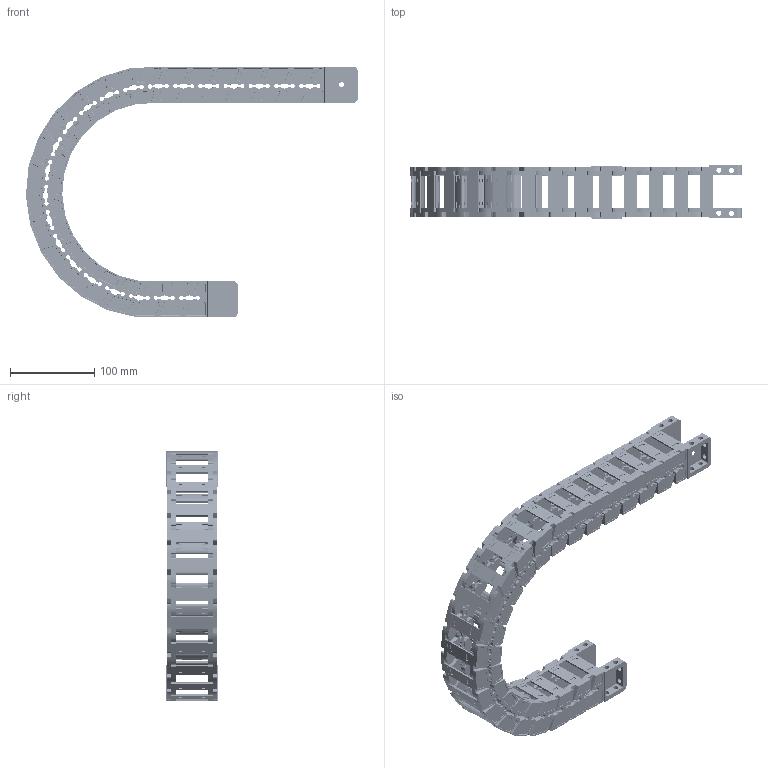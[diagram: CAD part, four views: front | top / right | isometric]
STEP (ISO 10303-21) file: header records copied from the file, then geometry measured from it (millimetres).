
FILE_DESCRIPTION((''),'2;1');
FILE_NAME('JY-35X38-R125_ASM','2025-01-05T19:37:54',('admin'),(''),'CREO PARAMETRIC BY PTC INC, 2021023','CREO PARAMETRIC BY PTC INC, 2021023','');
FILE_SCHEMA(('CONFIG_CONTROL_DESIGN'));
Length unit declared in the file: millimetre
Products named in the file (11): 35XL-L; YP; 35XL-R; ASM0001_ASM; 35-LTT-A-L; 35-LTT-A-R; 35XL-LTT-A_ASM; 35-LTT-B-L; 35-LTT-B-R; 35XL-LTT-B_ASM; JY-35X38-R125_ASM
Assembly tree (35 placements, depth 3):
  JY-35X38-R125_ASM
    ASM0001_ASM  x21
      35XL-L
      YP
      35XL-R
    35XL-LTT-A_ASM
      35-LTT-A-L
      YP  x2
      35-LTT-A-R
    35XL-LTT-B_ASM
      35-LTT-B-L
      YP  x2
      35-LTT-B-R
Bounding box: 395.09 x 63 x 298.23 mm (x, y, z)
Volume: 582609.5 mm3; surface area: 339793.5 mm2
Topology: 92 solids, 92 shells, 7504 faces, 22500 edges, 15188 vertices
Faces by surface type: plane 4246, cylinder 2466, cone 484, extrusion 176, bspline 132
Entity records: 27890 total; most frequent: CARTESIAN_POINT 6168, ORIENTED_EDGE 4640, DIRECTION 4365, EDGE_CURVE 2320, VERTEX_POINT 1568, AXIS2_PLACEMENT_3D 1474, VECTOR 1417, LINE 1401
